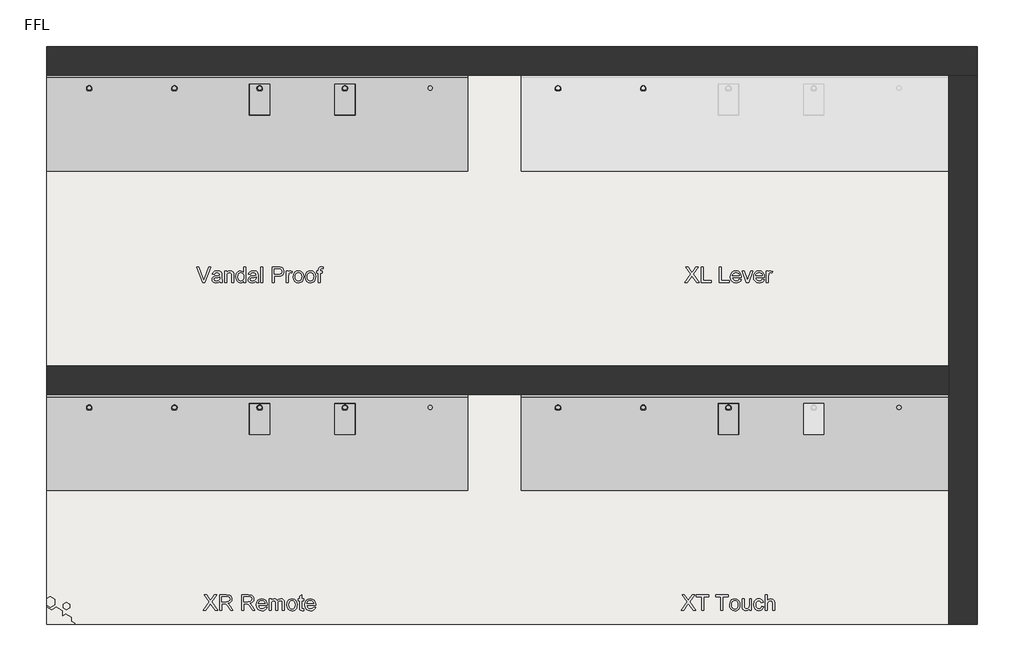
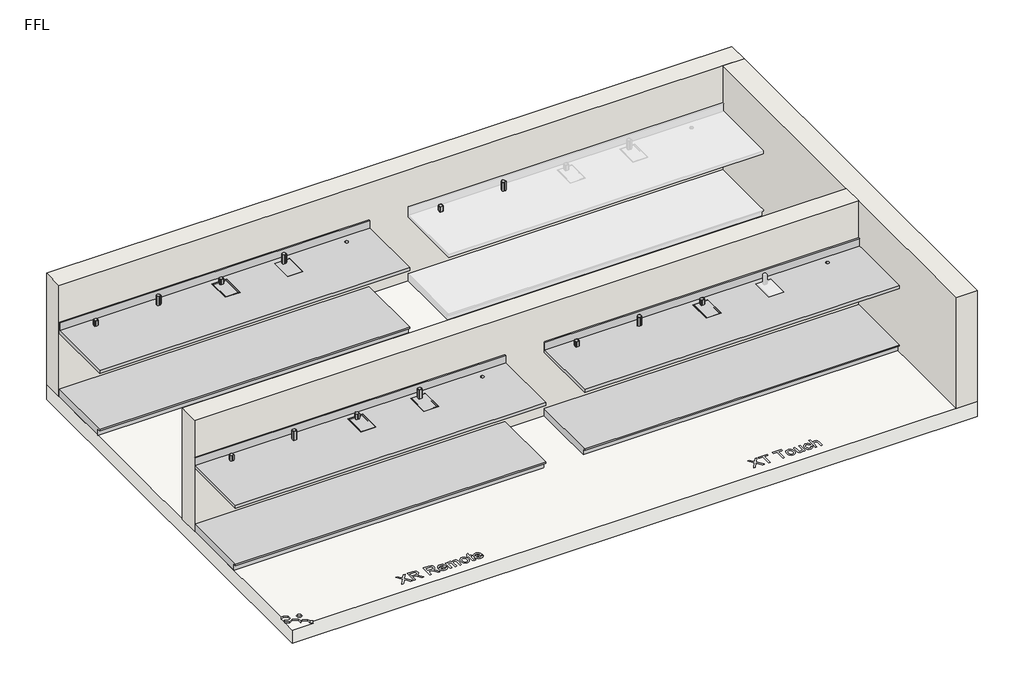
# One storey, part 1 of 2: 13 flow terminals, 6 furniture elements, 3 walls, 1 slab.
"""IFC4 building model written with IfcOpenShell, lengths in millimetres."""

from ifc_helpers import new_model, si_unit, frame, origin, origin_with_axes, place, context, project, spatial, polyline, circle_curve, outline, extrude, faceted_brep, transform, mapped, element, save
from ifc_brep_helpers import plane_surface, revolved_surface, advanced_brep
from components import brushed_582ad824, chrome_7b1b1f62, chrome_988dec97, chrome_73782d16, generic_plinth_900mm_069b71a8, generic_plinth_900mm_18ae8893

model = new_model("IFC4")

# Units and contexts
model_context = context("Model", 3, world=origin())
ifc_project = project(units=[si_unit("LENGTHUNIT", "METRE", prefix="MILLI")], contexts=[model_context])

# Site, building, storey
site = spatial("IfcSite", under=ifc_project)
building = spatial("IfcBuilding", under=site)
storey = spatial("IfcBuildingStorey", under=building, Name="FFL", Elevation=0.0)

# Flow terminals
placement = place(None, origin())
brushed_shape = brushed_582ad824(model_context)
element("IfcFlowTerminal", 1, ObjectType="z_PlumFixt_Billi_70mm Riser  : Brushed", at=placement, inside=storey, context=model_context, shape_type="MappedRepresentation", body=[
    mapped(brushed_shape, transform((-2170.7352929, 13741.9893304, 900.0), x_axis=(1.0, 0.0, 0.0), y_axis=(0.0, 1.0, 0.0), z_axis=(0.0, 0.0, 1.0))),
])
element("IfcFlowTerminal", 2, ObjectType="z_PlumFixt_Billi_70mm Riser  : Brushed", at=placement, inside=storey, context=model_context, shape_type="MappedRepresentation", body=[
    mapped(brushed_shape, transform((-2170.7352929, 10741.9893304, 900.0), x_axis=(1.0, 0.0, 0.0), y_axis=(0.0, 1.0, 0.0), z_axis=(0.0, 0.0, 1.0))),
])
element("IfcFlowTerminal", 3, ObjectType="z_PlumFixt_Billi_70mm Riser  : Chrome", at=placement, inside=storey, context=model_context, shape_type="MappedRepresentation", body=[
    mapped(brushed_shape, transform((-6570.7352929, 13741.9893304, 900.0), x_axis=(1.0, 0.0, 0.0), y_axis=(0.0, 1.0, 0.0), z_axis=(0.0, 0.0, 1.0))),
])
element("IfcFlowTerminal", 4, ObjectType="z_PlumFixt_Billi_70mm Riser  : Chrome", at=placement, inside=storey, context=model_context, shape_type="MappedRepresentation", body=[
    mapped(brushed_shape, transform((-6570.7352929, 10741.9893304, 900.0), x_axis=(1.0, 0.0, 0.0), y_axis=(0.0, 1.0, 0.0), z_axis=(0.0, 0.0, 1.0))),
])
chrome_shape = chrome_7b1b1f62(model_context)
element("IfcFlowTerminal", 5, ObjectType="z_PlumFixt_Billi_120mm Riser : Chrome", at=placement, inside=storey, context=model_context, shape_type="MappedRepresentation", body=[
    mapped(chrome_shape, transform((-5770.7352929, 13741.9893304, 900.0), x_axis=(1.0, 0.0, 0.0), y_axis=(0.0, 1.0, 0.0), z_axis=(0.0, 0.0, 1.0))),
])
element("IfcFlowTerminal", 6, ObjectType="z_PlumFixt_Billi_120mm Riser : Chrome", at=placement, inside=storey, context=model_context, shape_type="MappedRepresentation", body=[
    mapped(chrome_shape, transform((-1370.7352929, 13741.9893304, 900.0), x_axis=(1.0, 0.0, 0.0), y_axis=(0.0, 1.0, 0.0), z_axis=(0.0, 0.0, 1.0))),
])
element("IfcFlowTerminal", 7, ObjectType="z_PlumFixt_Billi_120mm Riser : Chrome", at=placement, inside=storey, context=model_context, shape_type="MappedRepresentation", body=[
    mapped(chrome_shape, transform((-5770.7352929, 10741.9893304, 900.0), x_axis=(1.0, 0.0, 0.0), y_axis=(0.0, 1.0, 0.0), z_axis=(0.0, 0.0, 1.0))),
])
element("IfcFlowTerminal", 8, ObjectType="z_PlumFixt_Billi_120mm Riser : Chrome", at=placement, inside=storey, context=model_context, shape_type="MappedRepresentation", body=[
    mapped(chrome_shape, transform((-1370.7352929, 10741.9893304, 900.0), x_axis=(1.0, 0.0, 0.0), y_axis=(0.0, 1.0, 0.0), z_axis=(0.0, 0.0, 1.0))),
])
chrome_2_shape = chrome_988dec97(model_context)
element("IfcFlowTerminal", 9, ObjectType="z_PlumFixt_Billi_Font and 70mm Riser : Chrome", at=placement, inside=storey, context=model_context, shape_type="MappedRepresentation", body=[
    mapped(chrome_2_shape, transform((-4970.7352929, 13633.3988696, 900.0), x_axis=(1.0, 0.0, 0.0), y_axis=(0.0, 1.0, 0.0), z_axis=(0.0, 0.0, 1.0))),
])
element("IfcFlowTerminal", 10, ObjectType="z_PlumFixt_Billi_Font and 70mm Riser : Chrome", at=placement, inside=storey, context=model_context, shape_type="MappedRepresentation", body=[
    mapped(chrome_2_shape, transform((-4970.7352929, 10633.3988696, 900.0), x_axis=(1.0, 0.0, 0.0), y_axis=(0.0, 1.0, 0.0), z_axis=(0.0, 0.0, 1.0))),
])
chrome_3_shape = chrome_73782d16(model_context)
element("IfcFlowTerminal", 11, ObjectType="z_PlumFixt_Billi_Font and 120mm Riser : Chrome", at=placement, inside=storey, context=model_context, shape_type="MappedRepresentation", body=[
    mapped(chrome_3_shape, transform((-4170.7352929, 13633.3988696, 900.0), x_axis=(1.0, 0.0, 0.0), y_axis=(0.0, 1.0, 0.0), z_axis=(0.0, 0.0, 1.0))),
])
element("IfcFlowTerminal", 12, ObjectType="z_PlumFixt_Billi_Font and 120mm Riser : Chrome", at=placement, inside=storey, context=model_context, shape_type="MappedRepresentation", body=[
    mapped(chrome_3_shape, transform((-4170.7352929, 10633.3988696, 900.0), x_axis=(1.0, 0.0, 0.0), y_axis=(0.0, 1.0, 0.0), z_axis=(0.0, 0.0, 1.0))),
])
element("IfcFlowTerminal", 13, ObjectType="z_PlumFixt_Billi_Font and 70mm Riser : Matte Black", at=placement, inside=storey, context=model_context, shape_type="MappedRepresentation", body=[
    mapped(chrome_2_shape, transform((-570.7352929, 10633.3988696, 900.0), x_axis=(1.0, 0.0, 0.0), y_axis=(0.0, 1.0, 0.0), z_axis=(0.0, 0.0, 1.0))),
])

# Furniture
element("IfcFurniture", 14, ObjectType="Counter Top : 900mm Depth", at=placement, inside=storey, context=model_context, shape_type="AdvancedBrep", body=[
    advanced_brep(
    [(-6969.7352929, 12948.2393304, 900.0), (-3015.7352929, 12948.2393304, 900.0), (-3015.7352929, 13829.1893304, 900.0), (-6969.7352929, 13829.1893304, 900.0), (-5769.7352929, 13748.2393304, 900.0), (-5769.7352929, 13708.2393304, 900.0), (-6569.7352929, 13748.2393304, 900.0), (-6569.7352929, 13708.2393304, 900.0), (-4874.2352929, 13474.1488696, 900.0), (-5065.2352929, 13474.1488696, 900.0), (-5065.2352929, 13765.1488696, 900.0), (-4874.2352929, 13765.1488696, 900.0), (-4074.2352929, 13474.1488696, 900.0), (-4265.2352929, 13474.1488696, 900.0), (-4265.2352929, 13765.1488696, 900.0), (-4074.2352929, 13765.1488696, 900.0), (-3369.7352929, 13748.2393304, 900.0), (-3369.7352929, 13708.2393304, 900.0), (-3015.7352929, 13848.2393304, 860.0), (-3015.7352929, 12948.2393304, 860.0), (-6969.7352929, 12948.2393304, 860.0), (-6969.7352929, 13848.2393304, 860.0), (-5769.7352929, 13708.2393304, 860.0), (-5769.7352929, 13748.2393304, 860.0), (-6569.7352929, 13708.2393304, 860.0), (-6569.7352929, 13748.2393304, 860.0), (-5056.7352929, 13482.6488696, 860.0), (-4882.7352929, 13482.6488696, 860.0), (-4882.7352929, 13756.6488696, 860.0), (-5056.7352929, 13756.6488696, 860.0), (-4256.7352929, 13482.6488696, 860.0), (-4082.7352929, 13482.6488696, 860.0), (-4082.7352929, 13756.6488696, 860.0), (-4256.7352929, 13756.6488696, 860.0), (-3369.7352929, 13708.2393304, 860.0), (-3369.7352929, 13748.2393304, 860.0), (-6969.7352929, 13848.2393304, 1001.6), (-3015.7352929, 13848.2393304, 1001.6), (-6969.7352929, 13829.1893304, 1001.6), (-3015.7352929, 13829.1893304, 1001.6), (-5056.7352929, 13482.6488696, 894.5), (-4882.7352929, 13482.6488696, 894.5), (-4874.2352929, 13474.1488696, 894.5), (-5065.2352929, 13474.1488696, 894.5), (-4882.7352929, 13756.6488696, 894.5), (-4874.2352929, 13765.1488696, 894.5), (-5056.7352929, 13756.6488696, 894.5), (-5065.2352929, 13765.1488696, 894.5), (-4256.7352929, 13482.6488696, 894.5), (-4082.7352929, 13482.6488696, 894.5), (-4074.2352929, 13474.1488696, 894.5), (-4265.2352929, 13474.1488696, 894.5), (-4082.7352929, 13756.6488696, 894.5), (-4074.2352929, 13765.1488696, 894.5), (-4256.7352929, 13756.6488696, 894.5), (-4265.2352929, 13765.1488696, 894.5)],
    [
        (0, 1),
        (1, 2),
        (2, 3),
        (3, 0),
        (4, 5, circle_curve(frame((-5769.7352929, 13728.2393304, 900.0), z_axis=(0.0, 0.0, -1.0), x_axis=(0.0, 1.0, 0.0)), 20.0)),
        (5, 4, circle_curve(frame((-5769.7352929, 13728.2393304, 900.0), z_axis=(0.0, 0.0, -1.0), x_axis=(0.0, 1.0, 0.0)), 20.0)),
        (6, 7, circle_curve(frame((-6569.7352929, 13728.2393304, 900.0), z_axis=(0.0, 0.0, -1.0), x_axis=(0.0, 1.0, 0.0)), 20.0)),
        (7, 6, circle_curve(frame((-6569.7352929, 13728.2393304, 900.0), z_axis=(0.0, 0.0, -1.0), x_axis=(0.0, 1.0, 0.0)), 20.0)),
        (8, 9),
        (9, 10),
        (10, 11),
        (11, 8),
        (12, 13),
        (13, 14),
        (14, 15),
        (15, 12),
        (16, 17, circle_curve(frame((-3369.7352929, 13728.2393304, 900.0), z_axis=(0.0, 0.0, -1.0), x_axis=(0.0, 1.0, 0.0)), 20.0)),
        (17, 16, circle_curve(frame((-3369.7352929, 13728.2393304, 900.0), z_axis=(0.0, 0.0, -1.0), x_axis=(0.0, 1.0, 0.0)), 20.0)),
        (18, 19),
        (19, 20),
        (20, 21),
        (21, 18),
        (22, 23, circle_curve(frame((-5769.7352929, 13728.2393304, 860.0), z_axis=(0.0, 0.0, 1.0), x_axis=(0.0, 1.0, 0.0)), 20.0)),
        (23, 22, circle_curve(frame((-5769.7352929, 13728.2393304, 860.0), z_axis=(0.0, 0.0, 1.0), x_axis=(0.0, 1.0, 0.0)), 20.0)),
        (24, 25, circle_curve(frame((-6569.7352929, 13728.2393304, 860.0), z_axis=(0.0, 0.0, 1.0), x_axis=(0.0, 1.0, 0.0)), 20.0)),
        (25, 24, circle_curve(frame((-6569.7352929, 13728.2393304, 860.0), z_axis=(0.0, 0.0, 1.0), x_axis=(0.0, 1.0, 0.0)), 20.0)),
        (26, 27),
        (27, 28),
        (28, 29),
        (29, 26),
        (30, 31),
        (31, 32),
        (32, 33),
        (33, 30),
        (34, 35, circle_curve(frame((-3369.7352929, 13728.2393304, 860.0), z_axis=(0.0, 0.0, 1.0), x_axis=(0.0, 1.0, 0.0)), 20.0)),
        (35, 34, circle_curve(frame((-3369.7352929, 13728.2393304, 860.0), z_axis=(0.0, 0.0, 1.0), x_axis=(0.0, 1.0, 0.0)), 20.0)),
        (21, 36),
        (36, 37),
        (37, 18),
        (3, 38),
        (38, 36),
        (20, 0),
        (19, 1),
        (37, 39),
        (39, 2),
        (38, 39),
        (22, 5),
        (4, 23),
        (24, 7),
        (6, 25),
        (40, 41),
        (41, 27),
        (26, 40),
        (8, 42),
        (42, 43),
        (43, 9),
        (41, 44),
        (44, 28),
        (11, 45),
        (45, 42),
        (44, 46),
        (46, 29),
        (10, 47),
        (47, 45),
        (46, 40),
        (47, 43),
        (48, 49),
        (49, 31),
        (30, 48),
        (12, 50),
        (50, 51),
        (51, 13),
        (49, 52),
        (52, 32),
        (15, 53),
        (53, 50),
        (52, 54),
        (54, 33),
        (14, 55),
        (55, 53),
        (54, 48),
        (55, 51),
        (34, 17),
        (16, 35),
    ],
    [
        plane_surface(frame((-6969.7352929, 13848.2393304, 900.0), z_axis=(0.0, 0.0, 1.0), x_axis=(-1.0, 0.0, 0.0))),
        plane_surface(frame((-6969.7352929, 13848.2393304, 860.0), z_axis=(0.0, 0.0, -1.0), x_axis=(1.0, 0.0, 0.0))),
        plane_surface(frame((-3015.7352929, 13848.2393304, 900.0), z_axis=(0.0, 1.0, 0.0), x_axis=(0.0, 0.0, -1.0))),
        plane_surface(frame((-6969.7352929, 13848.2393304, 900.0), z_axis=(-1.0, 0.0, 0.0), x_axis=(0.0, 0.0, -1.0))),
        plane_surface(frame((-6969.7352929, 12948.2393304, 900.0), z_axis=(0.0, -1.0, 0.0), x_axis=(0.0, 0.0, -1.0))),
        plane_surface(frame((-3015.7352929, 12948.2393304, 900.0), z_axis=(1.0, 0.0, 0.0), x_axis=(0.0, 0.0, -1.0))),
        plane_surface(frame((-6969.7352929, 13848.2393304, 1001.6), z_axis=(0.0, 0.0, 1.0), x_axis=(0.0, -1.0, 0.0))),
        plane_surface(frame((-6969.7352929, 13829.1893304, 1001.6), z_axis=(0.0, -1.0, 0.0), x_axis=(0.0, 0.0, -1.0))),
        revolved_surface(polyline([(-5769.7352929, 13748.2393304, 900.0), (-5769.7352929, 13748.2393304, 860.0)]), (-5769.7352929, 13728.2393304, 800.0), (0.0, 0.0, 1.0)),
        revolved_surface(polyline([(-6569.7352929, 13748.2393304, 900.0), (-6569.7352929, 13748.2393304, 860.0)]), (-6569.7352929, 13728.2393304, 800.0), (0.0, 0.0, 1.0)),
        plane_surface(frame((-5056.7352929, 13482.6488696, 800.0), z_axis=(0.0, 1.0, 0.0), x_axis=(1.0, 0.0, 0.0))),
        plane_surface(frame((-5065.2352929, 13474.1488696, 894.5), z_axis=(0.0, 1.0, 0.0), x_axis=(1.0, 0.0, 0.0))),
        plane_surface(frame((-4882.7352929, 13482.6488696, 800.0), z_axis=(-1.0, 0.0, 0.0), x_axis=(0.0, 1.0, 0.0))),
        plane_surface(frame((-4874.2352929, 13474.1488696, 894.5), z_axis=(-1.0, 0.0, 0.0), x_axis=(0.0, 1.0, 0.0))),
        plane_surface(frame((-4882.7352929, 13756.6488696, 800.0), z_axis=(0.0, -1.0, 0.0), x_axis=(-1.0, 0.0, 0.0))),
        plane_surface(frame((-4874.2352929, 13765.1488696, 894.5), z_axis=(0.0, -1.0, 0.0), x_axis=(-1.0, 0.0, 0.0))),
        plane_surface(frame((-5056.7352929, 13756.6488696, 800.0), z_axis=(1.0, 0.0, 0.0), x_axis=(0.0, -1.0, 0.0))),
        plane_surface(frame((-5056.7352929, 13756.6488696, 894.5), z_axis=(0.0, 0.0, 1.0), x_axis=(0.0, -1.0, 0.0))),
        plane_surface(frame((-5065.2352929, 13765.1488696, 894.5), z_axis=(1.0, 0.0, 0.0), x_axis=(0.0, -1.0, 0.0))),
        plane_surface(frame((-4256.7352929, 13482.6488696, 800.0), z_axis=(0.0, 1.0, 0.0), x_axis=(1.0, 0.0, 0.0))),
        plane_surface(frame((-4265.2352929, 13474.1488696, 894.5), z_axis=(0.0, 1.0, 0.0), x_axis=(1.0, 0.0, 0.0))),
        plane_surface(frame((-4082.7352929, 13482.6488696, 800.0), z_axis=(-1.0, 0.0, 0.0), x_axis=(0.0, 1.0, 0.0))),
        plane_surface(frame((-4074.2352929, 13474.1488696, 894.5), z_axis=(-1.0, 0.0, 0.0), x_axis=(0.0, 1.0, 0.0))),
        plane_surface(frame((-4082.7352929, 13756.6488696, 800.0), z_axis=(0.0, -1.0, 0.0), x_axis=(-1.0, 0.0, 0.0))),
        plane_surface(frame((-4074.2352929, 13765.1488696, 894.5), z_axis=(0.0, -1.0, 0.0), x_axis=(-1.0, 0.0, 0.0))),
        plane_surface(frame((-4256.7352929, 13756.6488696, 800.0), z_axis=(1.0, 0.0, 0.0), x_axis=(0.0, -1.0, 0.0))),
        plane_surface(frame((-4256.7352929, 13756.6488696, 894.5), z_axis=(0.0, 0.0, 1.0), x_axis=(0.0, -1.0, 0.0))),
        plane_surface(frame((-4265.2352929, 13765.1488696, 894.5), z_axis=(1.0, 0.0, 0.0), x_axis=(0.0, -1.0, 0.0))),
        revolved_surface(polyline([(-3369.7352929, 13748.2393304, 900.0), (-3369.7352929, 13748.2393304, 860.0)]), (-3369.7352929, 13728.2393304, 800.0), (0.0, 0.0, 1.0)),
    ],
    [
        (0, [[1, 2, 3, 4], [5, 6], [7, 8], [9, 10, 11, 12], [13, 14, 15, 16], [17, 18]]),
        (1, [[19, 20, 21, 22], [23, 24], [25, 26], [27, 28, 29, 30], [31, 32, 33, 34], [35, 36]]),
        (2, [[-22, 37, 38, 39]]),
        (3, [[-4, 40, 41, -37, -21, 42]]),
        (4, [[-1, -42, -20, 43]]),
        (5, [[-2, -43, -19, -39, 44, 45]]),
        (6, [[-38, -41, 46, -44]]),
        (7, [[-3, -45, -46, -40]]),
        (8, [[47, -5, 48, -23]]),
        (8, [[-47, -24, -48, -6]]),
        (9, [[49, -7, 50, -25]]),
        (9, [[-49, -26, -50, -8]]),
        (10, [[51, 52, -27, 53]]),
        (11, [[54, 55, 56, -9]]),
        (12, [[57, 58, -28, -52]]),
        (13, [[-54, -12, 59, 60]]),
        (14, [[61, 62, -29, -58]]),
        (15, [[-59, -11, 63, 64]]),
        (16, [[65, -53, -30, -62]]),
        (17, [[-55, -60, -64, 66], [-51, -65, -61, -57]]),
        (18, [[-56, -66, -63, -10]]),
        (19, [[67, 68, -31, 69]]),
        (20, [[70, 71, 72, -13]]),
        (21, [[73, 74, -32, -68]]),
        (22, [[-70, -16, 75, 76]]),
        (23, [[77, 78, -33, -74]]),
        (24, [[-75, -15, 79, 80]]),
        (25, [[81, -69, -34, -78]]),
        (26, [[-71, -76, -80, 82], [-67, -81, -77, -73]]),
        (27, [[-72, -82, -79, -14]]),
        (28, [[83, -17, 84, -35]]),
        (28, [[-83, -36, -84, -18]]),
    ],
),
])
element("IfcFurniture", 15, ObjectType="Counter Top : 900mm Depth", at=placement, inside=storey, context=model_context, shape_type="AdvancedBrep", body=[
    advanced_brep(
    [(-2515.7352929, 9948.2393304, 900.0), (1496.7657919, 9948.2393304, 900.0), (1496.7657919, 10829.1893304, 900.0), (-2515.7352929, 10829.1893304, 900.0), (1030.2647071, 10748.2393304, 900.0), (1030.2647071, 10708.2393304, 900.0), (325.7647071, 10474.1488696, 900.0), (134.7647071, 10474.1488696, 900.0), (134.7647071, 10765.1488696, 900.0), (325.7647071, 10765.1488696, 900.0), (-474.2352929, 10474.1488696, 900.0), (-665.2352929, 10474.1488696, 900.0), (-665.2352929, 10765.1488696, 900.0), (-474.2352929, 10765.1488696, 900.0), (-1369.7352929, 10748.2393304, 900.0), (-1369.7352929, 10708.2393304, 900.0), (-2169.7352929, 10748.2393304, 900.0), (-2169.7352929, 10708.2393304, 900.0), (1496.7657919, 10848.2393304, 860.0), (1496.7657919, 9948.2393304, 860.0), (-2515.7352929, 9948.2393304, 860.0), (-2515.7352929, 10848.2393304, 860.0), (1030.2647071, 10708.2393304, 860.0), (1030.2647071, 10748.2393304, 860.0), (143.2647071, 10482.6488696, 860.0), (317.2647071, 10482.6488696, 860.0), (317.2647071, 10756.6488696, 860.0), (143.2647071, 10756.6488696, 860.0), (-656.7352929, 10482.6488696, 860.0), (-482.7352929, 10482.6488696, 860.0), (-482.7352929, 10756.6488696, 860.0), (-656.7352929, 10756.6488696, 860.0), (-1369.7352929, 10708.2393304, 860.0), (-1369.7352929, 10748.2393304, 860.0), (-2169.7352929, 10708.2393304, 860.0), (-2169.7352929, 10748.2393304, 860.0), (-2515.7352929, 10848.2393304, 1001.6), (1496.7657919, 10848.2393304, 1001.6), (-2515.7352929, 10829.1893304, 1001.6), (1496.7657919, 10829.1893304, 1001.6), (143.2647071, 10482.6488696, 894.5), (317.2647071, 10482.6488696, 894.5), (325.7647071, 10474.1488696, 894.5), (134.7647071, 10474.1488696, 894.5), (317.2647071, 10756.6488696, 894.5), (325.7647071, 10765.1488696, 894.5), (143.2647071, 10756.6488696, 894.5), (134.7647071, 10765.1488696, 894.5), (-656.7352929, 10482.6488696, 894.5), (-482.7352929, 10482.6488696, 894.5), (-474.2352929, 10474.1488696, 894.5), (-665.2352929, 10474.1488696, 894.5), (-482.7352929, 10756.6488696, 894.5), (-474.2352929, 10765.1488696, 894.5), (-656.7352929, 10756.6488696, 894.5), (-665.2352929, 10765.1488696, 894.5)],
    [
        (0, 1),
        (1, 2),
        (2, 3),
        (3, 0),
        (4, 5, circle_curve(frame((1030.2647071, 10728.2393304, 900.0), z_axis=(0.0, 0.0, -1.0), x_axis=(0.0, 1.0, 0.0)), 20.0)),
        (5, 4, circle_curve(frame((1030.2647071, 10728.2393304, 900.0), z_axis=(0.0, 0.0, -1.0), x_axis=(0.0, 1.0, 0.0)), 20.0)),
        (6, 7),
        (7, 8),
        (8, 9),
        (9, 6),
        (10, 11),
        (11, 12),
        (12, 13),
        (13, 10),
        (14, 15, circle_curve(frame((-1369.7352929, 10728.2393304, 900.0), z_axis=(0.0, 0.0, -1.0), x_axis=(0.0, 1.0, 0.0)), 20.0)),
        (15, 14, circle_curve(frame((-1369.7352929, 10728.2393304, 900.0), z_axis=(0.0, 0.0, -1.0), x_axis=(0.0, 1.0, 0.0)), 20.0)),
        (16, 17, circle_curve(frame((-2169.7352929, 10728.2393304, 900.0), z_axis=(0.0, 0.0, -1.0), x_axis=(0.0, 1.0, 0.0)), 20.0)),
        (17, 16, circle_curve(frame((-2169.7352929, 10728.2393304, 900.0), z_axis=(0.0, 0.0, -1.0), x_axis=(0.0, 1.0, 0.0)), 20.0)),
        (18, 19),
        (19, 20),
        (20, 21),
        (21, 18),
        (22, 23, circle_curve(frame((1030.2647071, 10728.2393304, 860.0), z_axis=(0.0, 0.0, 1.0), x_axis=(0.0, 1.0, 0.0)), 20.0)),
        (23, 22, circle_curve(frame((1030.2647071, 10728.2393304, 860.0), z_axis=(0.0, 0.0, 1.0), x_axis=(0.0, 1.0, 0.0)), 20.0)),
        (24, 25),
        (25, 26),
        (26, 27),
        (27, 24),
        (28, 29),
        (29, 30),
        (30, 31),
        (31, 28),
        (32, 33, circle_curve(frame((-1369.7352929, 10728.2393304, 860.0), z_axis=(0.0, 0.0, 1.0), x_axis=(0.0, 1.0, 0.0)), 20.0)),
        (33, 32, circle_curve(frame((-1369.7352929, 10728.2393304, 860.0), z_axis=(0.0, 0.0, 1.0), x_axis=(0.0, 1.0, 0.0)), 20.0)),
        (34, 35, circle_curve(frame((-2169.7352929, 10728.2393304, 860.0), z_axis=(0.0, 0.0, 1.0), x_axis=(0.0, 1.0, 0.0)), 20.0)),
        (35, 34, circle_curve(frame((-2169.7352929, 10728.2393304, 860.0), z_axis=(0.0, 0.0, 1.0), x_axis=(0.0, 1.0, 0.0)), 20.0)),
        (21, 36),
        (36, 37),
        (37, 18),
        (3, 38),
        (38, 36),
        (20, 0),
        (19, 1),
        (37, 39),
        (39, 2),
        (38, 39),
        (22, 5),
        (4, 23),
        (40, 41),
        (41, 25),
        (24, 40),
        (6, 42),
        (42, 43),
        (43, 7),
        (41, 44),
        (44, 26),
        (9, 45),
        (45, 42),
        (44, 46),
        (46, 27),
        (8, 47),
        (47, 45),
        (46, 40),
        (47, 43),
        (48, 49),
        (49, 29),
        (28, 48),
        (10, 50),
        (50, 51),
        (51, 11),
        (49, 52),
        (52, 30),
        (13, 53),
        (53, 50),
        (52, 54),
        (54, 31),
        (12, 55),
        (55, 53),
        (54, 48),
        (55, 51),
        (32, 15),
        (14, 33),
        (34, 17),
        (16, 35),
    ],
    [
        plane_surface(frame((-2515.7352929, 10848.2393304, 900.0), z_axis=(0.0, 0.0, 1.0), x_axis=(-1.0, 0.0, 0.0))),
        plane_surface(frame((-2515.7352929, 10848.2393304, 860.0), z_axis=(0.0, 0.0, -1.0), x_axis=(1.0, 0.0, 0.0))),
        plane_surface(frame((1496.7657919, 10848.2393304, 900.0), z_axis=(0.0, 1.0, 0.0), x_axis=(0.0, 0.0, -1.0))),
        plane_surface(frame((-2515.7352929, 10848.2393304, 900.0), z_axis=(-1.0, 0.0, 0.0), x_axis=(0.0, 0.0, -1.0))),
        plane_surface(frame((-2515.7352929, 9948.2393304, 900.0), z_axis=(0.0, -1.0, 0.0), x_axis=(0.0, 0.0, -1.0))),
        plane_surface(frame((1496.7657919, 9948.2393304, 900.0), z_axis=(1.0, 0.0, 0.0), x_axis=(0.0, 0.0, -1.0))),
        plane_surface(frame((-2515.7352929, 10848.2393304, 1001.6), z_axis=(0.0, 0.0, 1.0), x_axis=(0.0, -1.0, 0.0))),
        plane_surface(frame((-2515.7352929, 10829.1893304, 1001.6), z_axis=(0.0, -1.0, 0.0), x_axis=(0.0, 0.0, -1.0))),
        revolved_surface(polyline([(1030.2647071, 10748.2393304, 900.0), (1030.2647071, 10748.2393304, 860.0)]), (1030.2647071, 10728.2393304, 800.0), (0.0, 0.0, 1.0)),
        plane_surface(frame((143.2647071, 10482.6488696, 800.0), z_axis=(0.0, 1.0, 0.0), x_axis=(1.0, 0.0, 0.0))),
        plane_surface(frame((134.7647071, 10474.1488696, 894.5), z_axis=(0.0, 1.0, 0.0), x_axis=(1.0, 0.0, 0.0))),
        plane_surface(frame((317.2647071, 10482.6488696, 800.0), z_axis=(-1.0, 0.0, 0.0), x_axis=(0.0, 1.0, 0.0))),
        plane_surface(frame((325.7647071, 10474.1488696, 894.5), z_axis=(-1.0, 0.0, 0.0), x_axis=(0.0, 1.0, 0.0))),
        plane_surface(frame((317.2647071, 10756.6488696, 800.0), z_axis=(0.0, -1.0, 0.0), x_axis=(-1.0, 0.0, 0.0))),
        plane_surface(frame((325.7647071, 10765.1488696, 894.5), z_axis=(0.0, -1.0, 0.0), x_axis=(-1.0, 0.0, 0.0))),
        plane_surface(frame((143.2647071, 10756.6488696, 800.0), z_axis=(1.0, 0.0, 0.0), x_axis=(0.0, -1.0, 0.0))),
        plane_surface(frame((143.2647071, 10756.6488696, 894.5), z_axis=(0.0, 0.0, 1.0), x_axis=(0.0, -1.0, 0.0))),
        plane_surface(frame((134.7647071, 10765.1488696, 894.5), z_axis=(1.0, 0.0, 0.0), x_axis=(0.0, -1.0, 0.0))),
        plane_surface(frame((-656.7352929, 10482.6488696, 800.0), z_axis=(0.0, 1.0, 0.0), x_axis=(1.0, 0.0, 0.0))),
        plane_surface(frame((-665.2352929, 10474.1488696, 894.5), z_axis=(0.0, 1.0, 0.0), x_axis=(1.0, 0.0, 0.0))),
        plane_surface(frame((-482.7352929, 10482.6488696, 800.0), z_axis=(-1.0, 0.0, 0.0), x_axis=(0.0, 1.0, 0.0))),
        plane_surface(frame((-474.2352929, 10474.1488696, 894.5), z_axis=(-1.0, 0.0, 0.0), x_axis=(0.0, 1.0, 0.0))),
        plane_surface(frame((-482.7352929, 10756.6488696, 800.0), z_axis=(0.0, -1.0, 0.0), x_axis=(-1.0, 0.0, 0.0))),
        plane_surface(frame((-474.2352929, 10765.1488696, 894.5), z_axis=(0.0, -1.0, 0.0), x_axis=(-1.0, 0.0, 0.0))),
        plane_surface(frame((-656.7352929, 10756.6488696, 800.0), z_axis=(1.0, 0.0, 0.0), x_axis=(0.0, -1.0, 0.0))),
        plane_surface(frame((-656.7352929, 10756.6488696, 894.5), z_axis=(0.0, 0.0, 1.0), x_axis=(0.0, -1.0, 0.0))),
        plane_surface(frame((-665.2352929, 10765.1488696, 894.5), z_axis=(1.0, 0.0, 0.0), x_axis=(0.0, -1.0, 0.0))),
        revolved_surface(polyline([(-1369.7352929, 10748.2393304, 900.0), (-1369.7352929, 10748.2393304, 860.0)]), (-1369.7352929, 10728.2393304, 800.0), (0.0, 0.0, 1.0)),
        revolved_surface(polyline([(-2169.7352929, 10748.2393304, 900.0), (-2169.7352929, 10748.2393304, 860.0)]), (-2169.7352929, 10728.2393304, 800.0), (0.0, 0.0, 1.0)),
    ],
    [
        (0, [[1, 2, 3, 4], [5, 6], [7, 8, 9, 10], [11, 12, 13, 14], [15, 16], [17, 18]]),
        (1, [[19, 20, 21, 22], [23, 24], [25, 26, 27, 28], [29, 30, 31, 32], [33, 34], [35, 36]]),
        (2, [[-22, 37, 38, 39]]),
        (3, [[-4, 40, 41, -37, -21, 42]]),
        (4, [[-1, -42, -20, 43]]),
        (5, [[-2, -43, -19, -39, 44, 45]]),
        (6, [[-38, -41, 46, -44]]),
        (7, [[-3, -45, -46, -40]]),
        (8, [[47, -5, 48, -23]]),
        (8, [[-47, -24, -48, -6]]),
        (9, [[49, 50, -25, 51]]),
        (10, [[52, 53, 54, -7]]),
        (11, [[55, 56, -26, -50]]),
        (12, [[-52, -10, 57, 58]]),
        (13, [[59, 60, -27, -56]]),
        (14, [[-57, -9, 61, 62]]),
        (15, [[63, -51, -28, -60]]),
        (16, [[-53, -58, -62, 64], [-49, -63, -59, -55]]),
        (17, [[-54, -64, -61, -8]]),
        (18, [[65, 66, -29, 67]]),
        (19, [[68, 69, 70, -11]]),
        (20, [[71, 72, -30, -66]]),
        (21, [[-68, -14, 73, 74]]),
        (22, [[75, 76, -31, -72]]),
        (23, [[-73, -13, 77, 78]]),
        (24, [[79, -67, -32, -76]]),
        (25, [[-69, -74, -78, 80], [-65, -79, -75, -71]]),
        (26, [[-70, -80, -77, -12]]),
        (27, [[81, -15, 82, -33]]),
        (27, [[-81, -34, -82, -16]]),
        (28, [[83, -17, 84, -35]]),
        (28, [[-83, -36, -84, -18]]),
    ],
),
])
element("IfcFurniture", 16, ObjectType="Counter Top : 900mm Depth", at=placement, inside=storey, context=model_context, shape_type="AdvancedBrep", body=[
    advanced_brep(
    [(-6969.7352929, 9948.2393304, 900.0), (-3015.7352929, 9948.2393304, 900.0), (-3015.7352929, 10829.1893304, 900.0), (-6969.7352929, 10829.1893304, 900.0), (-3369.7352929, 10748.2393304, 900.0), (-3369.7352929, 10708.2393304, 900.0), (-4074.2352929, 10474.1488696, 900.0), (-4265.2352929, 10474.1488696, 900.0), (-4265.2352929, 10765.1488696, 900.0), (-4074.2352929, 10765.1488696, 900.0), (-4874.2352929, 10474.1488696, 900.0), (-5065.2352929, 10474.1488696, 900.0), (-5065.2352929, 10765.1488696, 900.0), (-4874.2352929, 10765.1488696, 900.0), (-5769.7352929, 10748.2393304, 900.0), (-5769.7352929, 10708.2393304, 900.0), (-6569.7352929, 10748.2393304, 900.0), (-6569.7352929, 10708.2393304, 900.0), (-3015.7352929, 10848.2393304, 860.0), (-3015.7352929, 9948.2393304, 860.0), (-6969.7352929, 9948.2393304, 860.0), (-6969.7352929, 10848.2393304, 860.0), (-3369.7352929, 10708.2393304, 860.0), (-3369.7352929, 10748.2393304, 860.0), (-4256.7352929, 10482.6488696, 860.0), (-4082.7352929, 10482.6488696, 860.0), (-4082.7352929, 10756.6488696, 860.0), (-4256.7352929, 10756.6488696, 860.0), (-5056.7352929, 10482.6488696, 860.0), (-4882.7352929, 10482.6488696, 860.0), (-4882.7352929, 10756.6488696, 860.0), (-5056.7352929, 10756.6488696, 860.0), (-5769.7352929, 10708.2393304, 860.0), (-5769.7352929, 10748.2393304, 860.0), (-6569.7352929, 10708.2393304, 860.0), (-6569.7352929, 10748.2393304, 860.0), (-6969.7352929, 10848.2393304, 1001.6), (-3015.7352929, 10848.2393304, 1001.6), (-6969.7352929, 10829.1893304, 1001.6), (-3015.7352929, 10829.1893304, 1001.6), (-4256.7352929, 10482.6488696, 894.5), (-4082.7352929, 10482.6488696, 894.5), (-4074.2352929, 10474.1488696, 894.5), (-4265.2352929, 10474.1488696, 894.5), (-4082.7352929, 10756.6488696, 894.5), (-4074.2352929, 10765.1488696, 894.5), (-4256.7352929, 10756.6488696, 894.5), (-4265.2352929, 10765.1488696, 894.5), (-5056.7352929, 10482.6488696, 894.5), (-4882.7352929, 10482.6488696, 894.5), (-4874.2352929, 10474.1488696, 894.5), (-5065.2352929, 10474.1488696, 894.5), (-4882.7352929, 10756.6488696, 894.5), (-4874.2352929, 10765.1488696, 894.5), (-5056.7352929, 10756.6488696, 894.5), (-5065.2352929, 10765.1488696, 894.5)],
    [
        (0, 1),
        (1, 2),
        (2, 3),
        (3, 0),
        (4, 5, circle_curve(frame((-3369.7352929, 10728.2393304, 900.0), z_axis=(0.0, 0.0, -1.0), x_axis=(0.0, 1.0, 0.0)), 20.0)),
        (5, 4, circle_curve(frame((-3369.7352929, 10728.2393304, 900.0), z_axis=(0.0, 0.0, -1.0), x_axis=(0.0, 1.0, 0.0)), 20.0)),
        (6, 7),
        (7, 8),
        (8, 9),
        (9, 6),
        (10, 11),
        (11, 12),
        (12, 13),
        (13, 10),
        (14, 15, circle_curve(frame((-5769.7352929, 10728.2393304, 900.0), z_axis=(0.0, 0.0, -1.0), x_axis=(0.0, 1.0, 0.0)), 20.0)),
        (15, 14, circle_curve(frame((-5769.7352929, 10728.2393304, 900.0), z_axis=(0.0, 0.0, -1.0), x_axis=(0.0, 1.0, 0.0)), 20.0)),
        (16, 17, circle_curve(frame((-6569.7352929, 10728.2393304, 900.0), z_axis=(0.0, 0.0, -1.0), x_axis=(0.0, 1.0, 0.0)), 20.0)),
        (17, 16, circle_curve(frame((-6569.7352929, 10728.2393304, 900.0), z_axis=(0.0, 0.0, -1.0), x_axis=(0.0, 1.0, 0.0)), 20.0)),
        (18, 19),
        (19, 20),
        (20, 21),
        (21, 18),
        (22, 23, circle_curve(frame((-3369.7352929, 10728.2393304, 860.0), z_axis=(0.0, 0.0, 1.0), x_axis=(0.0, 1.0, 0.0)), 20.0)),
        (23, 22, circle_curve(frame((-3369.7352929, 10728.2393304, 860.0), z_axis=(0.0, 0.0, 1.0), x_axis=(0.0, 1.0, 0.0)), 20.0)),
        (24, 25),
        (25, 26),
        (26, 27),
        (27, 24),
        (28, 29),
        (29, 30),
        (30, 31),
        (31, 28),
        (32, 33, circle_curve(frame((-5769.7352929, 10728.2393304, 860.0), z_axis=(0.0, 0.0, 1.0), x_axis=(0.0, 1.0, 0.0)), 20.0)),
        (33, 32, circle_curve(frame((-5769.7352929, 10728.2393304, 860.0), z_axis=(0.0, 0.0, 1.0), x_axis=(0.0, 1.0, 0.0)), 20.0)),
        (34, 35, circle_curve(frame((-6569.7352929, 10728.2393304, 860.0), z_axis=(0.0, 0.0, 1.0), x_axis=(0.0, 1.0, 0.0)), 20.0)),
        (35, 34, circle_curve(frame((-6569.7352929, 10728.2393304, 860.0), z_axis=(0.0, 0.0, 1.0), x_axis=(0.0, 1.0, 0.0)), 20.0)),
        (21, 36),
        (36, 37),
        (37, 18),
        (3, 38),
        (38, 36),
        (20, 0),
        (19, 1),
        (37, 39),
        (39, 2),
        (38, 39),
        (22, 5),
        (4, 23),
        (40, 41),
        (41, 25),
        (24, 40),
        (6, 42),
        (42, 43),
        (43, 7),
        (41, 44),
        (44, 26),
        (9, 45),
        (45, 42),
        (44, 46),
        (46, 27),
        (8, 47),
        (47, 45),
        (46, 40),
        (47, 43),
        (48, 49),
        (49, 29),
        (28, 48),
        (10, 50),
        (50, 51),
        (51, 11),
        (49, 52),
        (52, 30),
        (13, 53),
        (53, 50),
        (52, 54),
        (54, 31),
        (12, 55),
        (55, 53),
        (54, 48),
        (55, 51),
        (32, 15),
        (14, 33),
        (34, 17),
        (16, 35),
    ],
    [
        plane_surface(frame((-6969.7352929, 10848.2393304, 900.0), z_axis=(0.0, 0.0, 1.0), x_axis=(-1.0, 0.0, 0.0))),
        plane_surface(frame((-6969.7352929, 10848.2393304, 860.0), z_axis=(0.0, 0.0, -1.0), x_axis=(1.0, 0.0, 0.0))),
        plane_surface(frame((-3015.7352929, 10848.2393304, 900.0), z_axis=(0.0, 1.0, 0.0), x_axis=(0.0, 0.0, -1.0))),
        plane_surface(frame((-6969.7352929, 10848.2393304, 900.0), z_axis=(-1.0, 0.0, 0.0), x_axis=(0.0, 0.0, -1.0))),
        plane_surface(frame((-6969.7352929, 9948.2393304, 900.0), z_axis=(0.0, -1.0, 0.0), x_axis=(0.0, 0.0, -1.0))),
        plane_surface(frame((-3015.7352929, 9948.2393304, 900.0), z_axis=(1.0, 0.0, 0.0), x_axis=(0.0, 0.0, -1.0))),
        plane_surface(frame((-6969.7352929, 10848.2393304, 1001.6), z_axis=(0.0, 0.0, 1.0), x_axis=(0.0, -1.0, 0.0))),
        plane_surface(frame((-6969.7352929, 10829.1893304, 1001.6), z_axis=(0.0, -1.0, 0.0), x_axis=(0.0, 0.0, -1.0))),
        revolved_surface(polyline([(-3369.7352929, 10748.2393304, 900.0), (-3369.7352929, 10748.2393304, 860.0)]), (-3369.7352929, 10728.2393304, 800.0), (0.0, 0.0, 1.0)),
        plane_surface(frame((-4256.7352929, 10482.6488696, 800.0), z_axis=(0.0, 1.0, 0.0), x_axis=(1.0, 0.0, 0.0))),
        plane_surface(frame((-4265.2352929, 10474.1488696, 894.5), z_axis=(0.0, 1.0, 0.0), x_axis=(1.0, 0.0, 0.0))),
        plane_surface(frame((-4082.7352929, 10482.6488696, 800.0), z_axis=(-1.0, 0.0, 0.0), x_axis=(0.0, 1.0, 0.0))),
        plane_surface(frame((-4074.2352929, 10474.1488696, 894.5), z_axis=(-1.0, 0.0, 0.0), x_axis=(0.0, 1.0, 0.0))),
        plane_surface(frame((-4082.7352929, 10756.6488696, 800.0), z_axis=(0.0, -1.0, 0.0), x_axis=(-1.0, 0.0, 0.0))),
        plane_surface(frame((-4074.2352929, 10765.1488696, 894.5), z_axis=(0.0, -1.0, 0.0), x_axis=(-1.0, 0.0, 0.0))),
        plane_surface(frame((-4256.7352929, 10756.6488696, 800.0), z_axis=(1.0, 0.0, 0.0), x_axis=(0.0, -1.0, 0.0))),
        plane_surface(frame((-4256.7352929, 10756.6488696, 894.5), z_axis=(0.0, 0.0, 1.0), x_axis=(0.0, -1.0, 0.0))),
        plane_surface(frame((-4265.2352929, 10765.1488696, 894.5), z_axis=(1.0, 0.0, 0.0), x_axis=(0.0, -1.0, 0.0))),
        plane_surface(frame((-5056.7352929, 10482.6488696, 800.0), z_axis=(0.0, 1.0, 0.0), x_axis=(1.0, 0.0, 0.0))),
        plane_surface(frame((-5065.2352929, 10474.1488696, 894.5), z_axis=(0.0, 1.0, 0.0), x_axis=(1.0, 0.0, 0.0))),
        plane_surface(frame((-4882.7352929, 10482.6488696, 800.0), z_axis=(-1.0, 0.0, 0.0), x_axis=(0.0, 1.0, 0.0))),
        plane_surface(frame((-4874.2352929, 10474.1488696, 894.5), z_axis=(-1.0, 0.0, 0.0), x_axis=(0.0, 1.0, 0.0))),
        plane_surface(frame((-4882.7352929, 10756.6488696, 800.0), z_axis=(0.0, -1.0, 0.0), x_axis=(-1.0, 0.0, 0.0))),
        plane_surface(frame((-4874.2352929, 10765.1488696, 894.5), z_axis=(0.0, -1.0, 0.0), x_axis=(-1.0, 0.0, 0.0))),
        plane_surface(frame((-5056.7352929, 10756.6488696, 800.0), z_axis=(1.0, 0.0, 0.0), x_axis=(0.0, -1.0, 0.0))),
        plane_surface(frame((-5056.7352929, 10756.6488696, 894.5), z_axis=(0.0, 0.0, 1.0), x_axis=(0.0, -1.0, 0.0))),
        plane_surface(frame((-5065.2352929, 10765.1488696, 894.5), z_axis=(1.0, 0.0, 0.0), x_axis=(0.0, -1.0, 0.0))),
        revolved_surface(polyline([(-5769.7352929, 10748.2393304, 900.0), (-5769.7352929, 10748.2393304, 860.0)]), (-5769.7352929, 10728.2393304, 800.0), (0.0, 0.0, 1.0)),
        revolved_surface(polyline([(-6569.7352929, 10748.2393304, 900.0), (-6569.7352929, 10748.2393304, 860.0)]), (-6569.7352929, 10728.2393304, 800.0), (0.0, 0.0, 1.0)),
    ],
    [
        (0, [[1, 2, 3, 4], [5, 6], [7, 8, 9, 10], [11, 12, 13, 14], [15, 16], [17, 18]]),
        (1, [[19, 20, 21, 22], [23, 24], [25, 26, 27, 28], [29, 30, 31, 32], [33, 34], [35, 36]]),
        (2, [[-22, 37, 38, 39]]),
        (3, [[-4, 40, 41, -37, -21, 42]]),
        (4, [[-1, -42, -20, 43]]),
        (5, [[-2, -43, -19, -39, 44, 45]]),
        (6, [[-38, -41, 46, -44]]),
        (7, [[-3, -45, -46, -40]]),
        (8, [[47, -5, 48, -23]]),
        (8, [[-47, -24, -48, -6]]),
        (9, [[49, 50, -25, 51]]),
        (10, [[52, 53, 54, -7]]),
        (11, [[55, 56, -26, -50]]),
        (12, [[-52, -10, 57, 58]]),
        (13, [[59, 60, -27, -56]]),
        (14, [[-57, -9, 61, 62]]),
        (15, [[63, -51, -28, -60]]),
        (16, [[-53, -58, -62, 64], [-49, -63, -59, -55]]),
        (17, [[-54, -64, -61, -8]]),
        (18, [[65, 66, -29, 67]]),
        (19, [[68, 69, 70, -11]]),
        (20, [[71, 72, -30, -66]]),
        (21, [[-68, -14, 73, 74]]),
        (22, [[75, 76, -31, -72]]),
        (23, [[-73, -13, 77, 78]]),
        (24, [[79, -67, -32, -76]]),
        (25, [[-69, -74, -78, 80], [-65, -79, -75, -71]]),
        (26, [[-70, -80, -77, -12]]),
        (27, [[81, -15, 82, -33]]),
        (27, [[-81, -34, -82, -16]]),
        (28, [[83, -17, 84, -35]]),
        (28, [[-83, -36, -84, -18]]),
    ],
),
])
generic_plinth_900mm_shape = generic_plinth_900mm_069b71a8(model_context)
element("IfcFurniture", 17, ObjectType="Generic Plinth : 900mm", at=placement, inside=storey, context=model_context, shape_type="MappedRepresentation", body=[
    mapped(generic_plinth_900mm_shape, transform((-5011.4729978, 13848.2393304, 0.0), x_axis=(1.0, 0.0, 0.0), y_axis=(0.0, 1.0, 0.0), z_axis=(0.0, 0.0, 1.0))),
])
element("IfcFurniture", 18, ObjectType="Generic Plinth : 900mm", at=placement, inside=storey, context=model_context, shape_type="MappedRepresentation", body=[
    mapped(generic_plinth_900mm_shape, transform((-5011.4729978, 10848.2393304, 0.0), x_axis=(1.0, 0.0, 0.0), y_axis=(0.0, 1.0, 0.0), z_axis=(0.0, 0.0, 1.0))),
])
generic_plinth_900mm_2_shape = generic_plinth_900mm_18ae8893(model_context)
element("IfcFurniture", 19, ObjectType="Generic Plinth : 900mm", at=placement, inside=storey, context=model_context, shape_type="MappedRepresentation", body=[
    mapped(generic_plinth_900mm_2_shape, transform((-528.2224554, 10848.2393304, 0.0), x_axis=(1.0, 0.0, 0.0), y_axis=(0.0, 1.0, 0.0), z_axis=(0.0, 0.0, 1.0))),
])

# Slab
element("IfcSlab", 20, ObjectType="Generic 200mm", at=placement, inside=storey, context=model_context, shape_type="Brep", body=[
    faceted_brep([(1766.7657919, 14118.2393304, -200.0), (1766.7657919, 8693.2393304, -200.0), (-6969.7352929, 8693.2393304, -200.0), (-6969.7352929, 14118.2393304, -200.0), (1766.7657919, 8693.2393304, 0.0), (1766.7657919, 14118.2393304, 0.0), (-6969.7352929, 14118.2393304, 0.0), (-6969.7352929, 8934.0145983, 0.0), (-6932.7223575, 8955.3840265, 0.0), (-6886.3702024, 8928.6225973, 0.0), (-6886.3702024, 8873.4509639, 0.0), (-6932.7223575, 8846.6895348, 0.0), (-6969.7352929, 8868.058963, 0.0), (-6969.7352929, 8855.0407216, 0.0), (-6922.7403751, 8827.9081932, 0.0), (-6876.7358496, 8854.4689184, 0.0), (-6817.5048451, 8820.271882, 0.0), (-6817.5048451, 8773.6336523, 0.0), (-6788.2362051, 8790.5319095, 0.0), (-6733.5871808, 8758.9802806, 0.0), (-6733.5871808, 8719.8694367, 0.0), (-6698.9461647, 8699.8694367, 0.0), (-6698.9461647, 8693.2393304, 0.0), (-6782.6159207, 8897.4979281, 0.0), (-6751.8110434, 8879.7127239, 0.0), (-6751.8110434, 8847.1049291, 0.0), (-6782.6159207, 8829.3197249, 0.0), (-6813.420798, 8847.1049291, 0.0), (-6813.420798, 8879.7127239, 0.0), (-6698.9461647, 8693.2393304, -25.0), (-6969.7352929, 8693.2393304, -25.0), (-6969.7352929, 8855.0516248, -25.0), (-6969.7352929, 8868.058963, -25.0), (-6969.7352929, 8934.0145983, -25.0), (-6698.9461647, 8699.8694367, -25.0), (-6733.5871808, 8719.8694367, -25.0), (-6733.5871808, 8758.9802806, -25.0), (-6788.2362051, 8790.5319095, -25.0), (-6817.5048451, 8773.6336523, -25.0), (-6817.5048451, 8820.271882, -25.0), (-6876.7358496, 8854.4689184, -25.0), (-6922.7403751, 8827.9081932, -25.0), (-6886.3702024, 8928.6225973, -25.0), (-6932.7223575, 8955.3840265, -25.0), (-6932.7223575, 8846.6895348, -25.0), (-6886.3702024, 8873.4509639, -25.0), (-6751.8110434, 8879.7127239, -25.0), (-6782.6159207, 8897.4979281, -25.0), (-6813.420798, 8879.7127239, -25.0), (-6813.420798, 8847.1049291, -25.0), (-6782.6159207, 8829.3197249, -25.0), (-6751.8110434, 8847.1049291, -25.0)], [[[0, 1, 2, 3]], [[4, 5, 6, 7, 8, 9, 10, 11, 12, 13, 14, 15, 16, 17, 18, 19, 20, 21, 22], [23, 24, 25, 26, 27, 28]], [[1, 0, 5, 4]], [[2, 1, 4, 22, 29, 30]], [[3, 2, 30, 31, 13, 12, 32, 33, 7, 6]], [[0, 3, 6, 5]], [[34, 35, 36, 37, 38, 39, 40, 41, 31, 30, 29]], [[42, 43, 33, 32, 44, 45]], [[46, 47, 48, 49, 50, 51]], [[34, 29, 22, 21]], [[35, 34, 21, 20]], [[36, 35, 20, 19]], [[37, 36, 19, 18]], [[38, 37, 18, 17]], [[39, 38, 17, 16]], [[40, 39, 16, 15]], [[41, 40, 15, 14]], [[31, 41, 14, 13]], [[43, 42, 9, 8]], [[33, 43, 8, 7]], [[44, 32, 12, 11]], [[45, 44, 11, 10]], [[42, 45, 10, 9]], [[47, 46, 24, 23]], [[48, 47, 23, 28]], [[49, 48, 28, 27]], [[50, 49, 27, 26]], [[51, 50, 26, 25]], [[46, 51, 25, 24]]]),
])

# Walls
element("IfcWall", 21, ObjectType="Double brick - 270", at=placement, inside=storey, context=model_context, shape_type="SweptSolid", body=[
    extrude(outline(polyline([(1496.7657919, 10848.2393304), (-6969.7352929, 10848.2393304), (-6969.7352929, 11118.2393304), (1496.7657919, 11118.2393304), (1496.7657919, 10848.2393304)])), origin_with_axes(), (0.0, 0.0, 1.0), 1500.0),
])
element("IfcWall", 22, ObjectType="Double brick - 270", at=placement, inside=storey, context=model_context, shape_type="Brep", body=[
    faceted_brep([(-6969.7352929, 13848.2393304, 0.0), (1496.7657919, 13848.2393304, 0.0), (1766.7657919, 13848.2393304, 0.0), (1766.7657919, 13848.2393304, 1500.0), (1496.7657919, 13848.2393304, 1500.0), (-6969.7352929, 13848.2393304, 1500.0), (-6969.7352929, 14118.2393304, 0.0), (-6969.7352929, 14118.2393304, 1500.0), (1766.7657919, 14118.2393304, 1500.0), (1766.7657919, 14118.2393304, 0.0)], [[[0, 1, 2, 3, 4, 5]], [[6, 7, 8, 9]], [[2, 1, 0, 6, 9]], [[5, 4, 3, 8, 7]], [[0, 5, 7, 6]], [[3, 2, 9, 8]]]),
])
element("IfcWall", 23, ObjectType="Double brick - 270", at=placement, inside=storey, context=model_context, shape_type="Brep", body=[
    faceted_brep([(1766.7657919, 8693.2393304, 0.0), (1766.7657919, 13848.2393304, 0.0), (1766.7657919, 13848.2393304, 1500.0), (1766.7657919, 8693.2393304, 1500.0), (1496.7657919, 8693.2393304, 0.0), (1496.7657919, 8693.2393304, 1500.0), (1496.7657919, 10848.2393304, 1500.0), (1496.7657919, 11118.2393304, 1500.0), (1496.7657919, 13848.2393304, 1500.0), (1496.7657919, 13848.2393304, 0.0), (1496.7657919, 11118.2393304, 0.0), (1496.7657919, 10848.2393304, 0.0)], [[[0, 1, 2, 3]], [[4, 5, 6, 7, 8, 9, 10, 11]], [[1, 0, 4, 11, 10, 9]], [[3, 2, 8, 7, 6, 5]], [[0, 3, 5, 4]], [[2, 1, 9, 8]]]),
])

save(model, "model.ifc")
